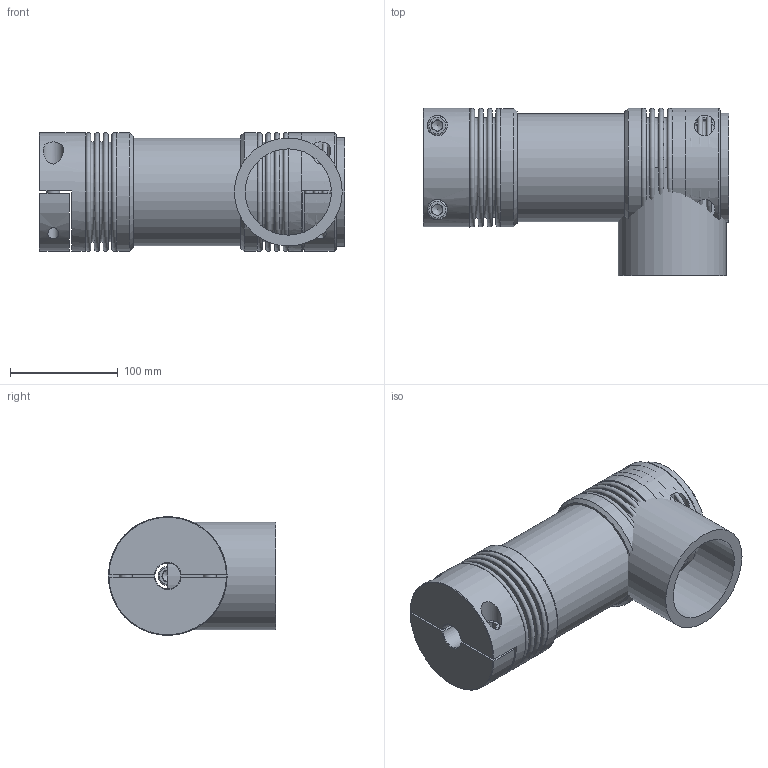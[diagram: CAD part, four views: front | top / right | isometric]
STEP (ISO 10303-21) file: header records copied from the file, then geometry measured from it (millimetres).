
FILE_DESCRIPTION( ( 'Unknown' ), '1' );
FILE_NAME( 'K:/Konstruktion/DRB/DRB300.stp', 'Unknown', ( 'Unknown' ), ( 'Unknown' ), 'XStep 1.0', 'Unknown', ' ' );
FILE_SCHEMA( ( 'automotive_design' ) );
Length unit declared in the file: millimetre
Products named in the file (7): Assem1; KN4H-300; BK300_Standard_0; Socket Head Cap Screw_DIN_DIN 912 M12 x 35 --- 35N_3; R100; Aufnahme R100
Bounding box: 283.21 x 155 x 110 mm (x, y, z)
Volume: 2009697.5 mm3; surface area: 561724.9 mm2
Topology: 19 solids, 19 shells, 320 faces, 627 edges, 404 vertices
Faces by surface type: plane 175, cylinder 65, torus 52, cone 28
Full cylindrical faces by diameter (mm): 10.106 x6, 12 x5, 12.5 x6, 18 x5, 19 x6, 24 x3, 70 x3, 80 x5, 99.8 x6, 100 x2, 101 x6, 110 x6
Entity records: 2744 total; most frequent: CARTESIAN_POINT 723, DIRECTION 422, ORIENTED_EDGE 270, AXIS2_PLACEMENT_3D 191, EDGE_LOOP 168, EDGE_CURVE 135, FACE_OUTER_BOUND 129, VERTEX_POINT 112
